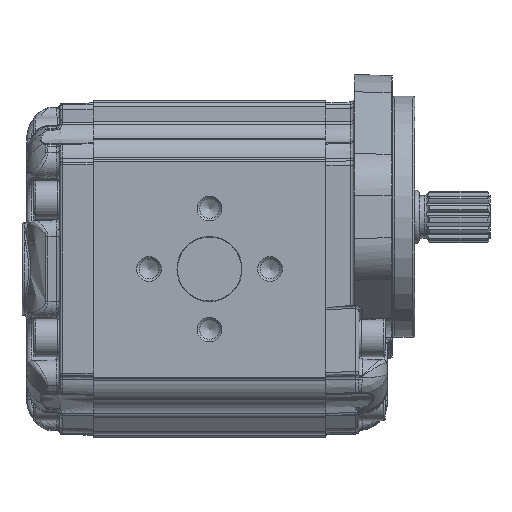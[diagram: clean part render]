
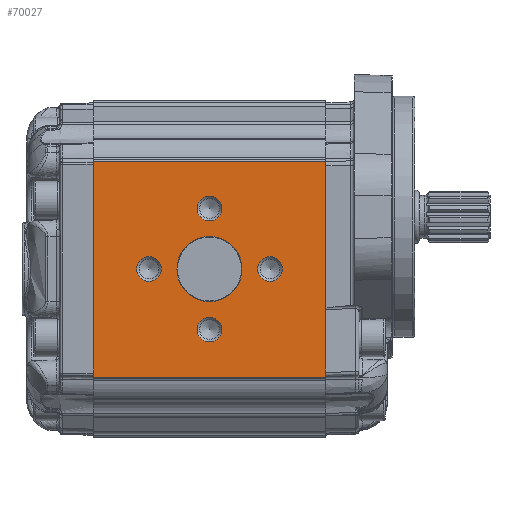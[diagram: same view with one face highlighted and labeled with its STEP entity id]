
A CAD part, left-side view. The second image highlights one B-rep face of the part: STEP entity #70027.
In plain terms, the highlighted planar face has unit normal (-1, 0, 0) as drawn and (1, 0, 0) by its records, which use the part's own axes.
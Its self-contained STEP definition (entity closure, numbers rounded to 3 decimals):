
#8105=LINE('',#122467,#10119);
#8116=LINE('',#122551,#10130);
#8162=LINE('',#122717,#10176);
#8163=LINE('',#122718,#10177);
#10119=VECTOR('',#77549,1000.);
#10130=VECTOR('',#77624,1000.);
#10176=VECTOR('',#77802,1000.);
#10177=VECTOR('',#77803,1000.);
#16526=ORIENTED_EDGE('',*,*,#29327,.T.);
#16527=ORIENTED_EDGE('',*,*,#29328,.T.);
#16528=ORIENTED_EDGE('',*,*,#29329,.T.);
#16529=ORIENTED_EDGE('',*,*,#29330,.T.);
#16530=ORIENTED_EDGE('',*,*,#29331,.T.);
#16531=ORIENTED_EDGE('',*,*,#29202,.F.);
#16532=ORIENTED_EDGE('',*,*,#29332,.T.);
#16533=ORIENTED_EDGE('',*,*,#29244,.F.);
#16534=ORIENTED_EDGE('',*,*,#29333,.T.);
#29202=EDGE_CURVE('',#35928,#35929,#8105,.T.);
#29244=EDGE_CURVE('',#35970,#35971,#8116,.T.);
#29327=EDGE_CURVE('',#36019,#36019,#39824,.F.);
#29328=EDGE_CURVE('',#36020,#36020,#39825,.F.);
#29329=EDGE_CURVE('',#36021,#36021,#39826,.F.);
#29330=EDGE_CURVE('',#36022,#36022,#39827,.F.);
#29331=EDGE_CURVE('',#36023,#36023,#39828,.F.);
#29332=EDGE_CURVE('',#35928,#35971,#8162,.F.);
#29333=EDGE_CURVE('',#35970,#35929,#8163,.F.);
#35928=VERTEX_POINT('',#122466);
#35929=VERTEX_POINT('',#122468);
#35970=VERTEX_POINT('',#122552);
#35971=VERTEX_POINT('',#122553);
#36019=VERTEX_POINT('',#122708);
#36020=VERTEX_POINT('',#122710);
#36021=VERTEX_POINT('',#122712);
#36022=VERTEX_POINT('',#122714);
#36023=VERTEX_POINT('',#122716);
#39824=CIRCLE('',#73302,5.188);
#39825=CIRCLE('',#73303,5.188);
#39826=CIRCLE('',#73304,5.188);
#39827=CIRCLE('',#73305,5.188);
#39828=CIRCLE('',#73306,13.7);
#41152=EDGE_LOOP('',(#16526));
#41153=EDGE_LOOP('',(#16527));
#41154=EDGE_LOOP('',(#16528));
#41155=EDGE_LOOP('',(#16529));
#41156=EDGE_LOOP('',(#16530));
#41157=EDGE_LOOP('',(#16531,#16532,#16533,#16534));
#44498=FACE_BOUND('',#41152,.T.);
#44499=FACE_BOUND('',#41153,.T.);
#44500=FACE_BOUND('',#41154,.T.);
#44501=FACE_BOUND('',#41155,.T.);
#44502=FACE_BOUND('',#41156,.T.);
#44503=FACE_BOUND('',#41157,.T.);
#46937=PLANE('',#73301);
#70027=ADVANCED_FACE('',(#44498,#44499,#44500,#44501,#44502,#44503),#46937,
 .T.);
#73301=AXIS2_PLACEMENT_3D('',#122706,#77790,#77791);
#73302=AXIS2_PLACEMENT_3D('',#122707,#77792,#77793);
#73303=AXIS2_PLACEMENT_3D('',#122709,#77794,#77795);
#73304=AXIS2_PLACEMENT_3D('',#122711,#77796,#77797);
#73305=AXIS2_PLACEMENT_3D('',#122713,#77798,#77799);
#73306=AXIS2_PLACEMENT_3D('',#122715,#77800,#77801);
#77549=DIRECTION('',(0.,0.,-1.));
#77624=DIRECTION('',(0.,0.,1.));
#77790=DIRECTION('',(1.,0.,0.));
#77791=DIRECTION('',(0.,0.,1.));
#77792=DIRECTION('',(1.,0.,0.));
#77793=DIRECTION('',(0.,0.,1.));
#77794=DIRECTION('',(1.,0.,0.));
#77795=DIRECTION('',(0.,0.,1.));
#77796=DIRECTION('',(1.,0.,0.));
#77797=DIRECTION('',(0.,0.,1.));
#77798=DIRECTION('',(1.,0.,0.));
#77799=DIRECTION('',(0.,0.,1.));
#77800=DIRECTION('',(1.,0.,0.));
#77801=DIRECTION('',(0.,0.,1.));
#77802=DIRECTION('',(0.,1.,0.));
#77803=DIRECTION('',(0.,-1.,0.));
#122466=CARTESIAN_POINT('',(57.5,98.,45.5));
#122467=CARTESIAN_POINT('',(57.5,98.,91.388));
#122468=CARTESIAN_POINT('',(57.5,98.,-45.5));
#122551=CARTESIAN_POINT('',(57.5,0.,-44.978));
#122552=CARTESIAN_POINT('',(57.5,0.,-45.5));
#122553=CARTESIAN_POINT('',(57.5,0.,45.5));
#122706=CARTESIAN_POINT('',(57.5,-135.113,91.388));
#122707=CARTESIAN_POINT('',(57.5,49.,25.5));
#122708=CARTESIAN_POINT('',(57.5,49.,30.688));
#122709=CARTESIAN_POINT('',(57.5,23.5,0.));
#122710=CARTESIAN_POINT('',(57.5,23.5,5.188));
#122711=CARTESIAN_POINT('',(57.5,49.,-25.5));
#122712=CARTESIAN_POINT('',(57.5,49.,-20.312));
#122713=CARTESIAN_POINT('',(57.5,74.5,0.));
#122714=CARTESIAN_POINT('',(57.5,74.5,5.188));
#122715=CARTESIAN_POINT('',(57.5,49.,0.));
#122716=CARTESIAN_POINT('',(57.5,49.,13.7));
#122717=CARTESIAN_POINT('',(57.5,-135.113,45.5));
#122718=CARTESIAN_POINT('',(57.5,-135.113,-45.5));
